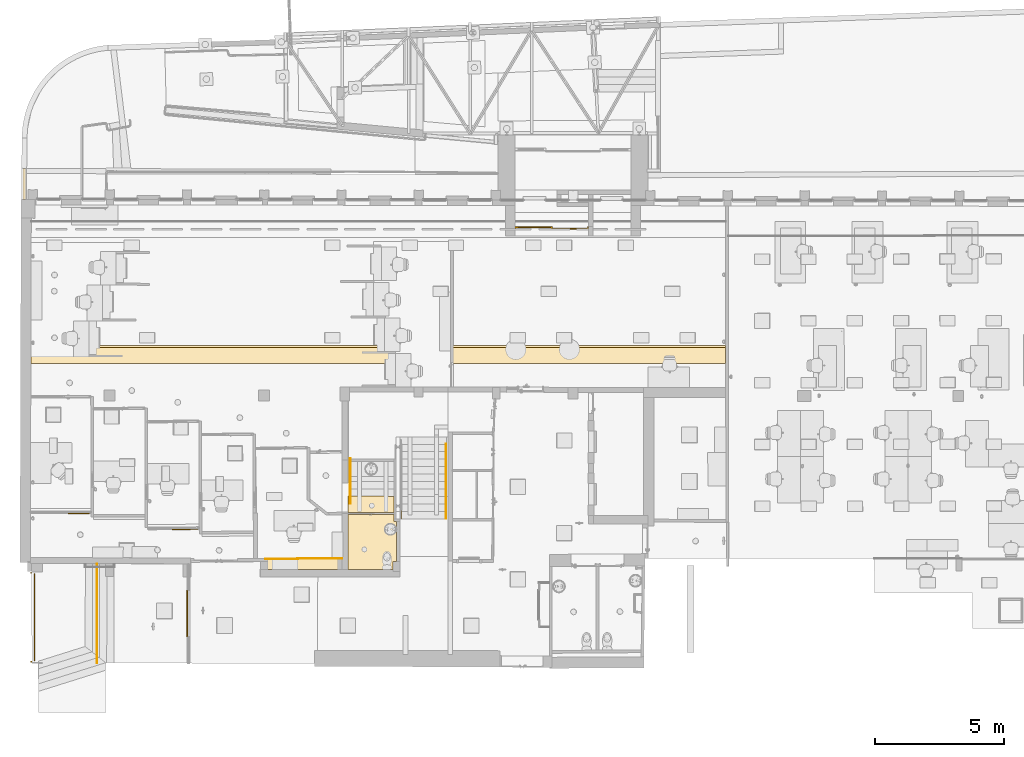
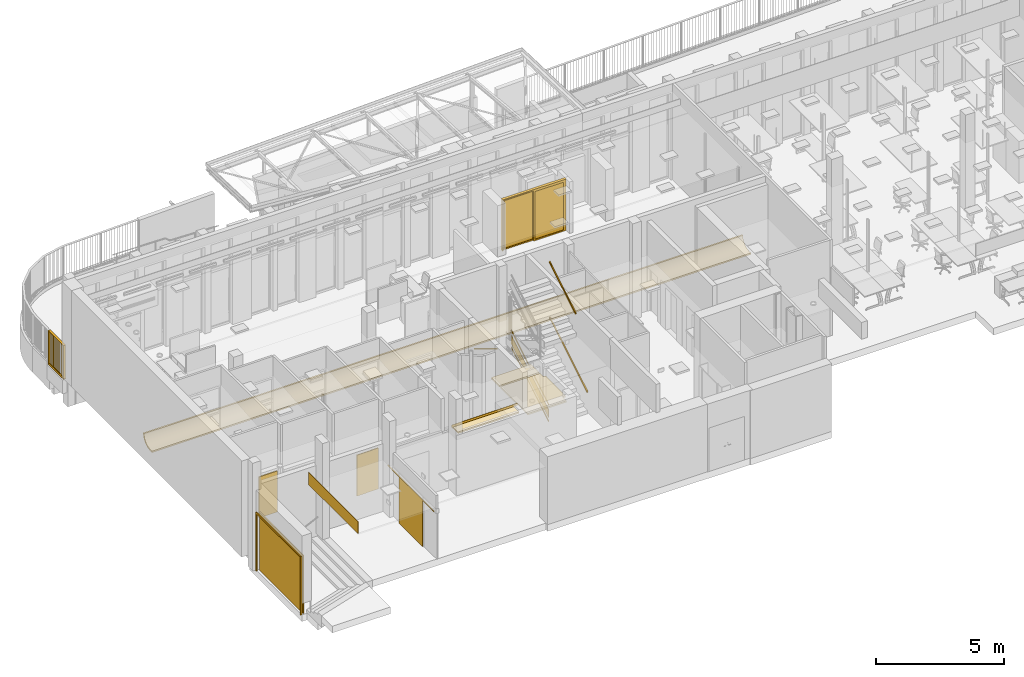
# One storey, part 51 of 128: 6 coverings, 5 doors, 5 railings, 3 elements without a shape of their own.
"""IFC2X3 building model written with IfcOpenShell, lengths in metres."""

from ifc_helpers import new_model, entity, si_unit, converted_unit, derived_unit, direction, frame, frame_2d, origin, origin_2d_with_axis, place, context, subcontext, project, spatial, polyline, circle_curve, parameter, trimmed, segment, composite_curve, rectangle, circle, outline, extrude, source, transform, mapped, material, material_list, layer, layer_set, layer_usage, type_object, type_shapes, element, aggregate, save


model = new_model("IFC2X3")

# Units and contexts
model_context = context("Model", 3, precision=1e-05, world=origin(), true_north=direction((6.123031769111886e-17, 1.0)))
body_context = subcontext(model_context, "Body", "Model", "MODEL_VIEW")
ifc_project = project(units=[si_unit("LENGTHUNIT", "METRE"), si_unit("AREAUNIT", "SQUARE_METRE"), converted_unit("PLANEANGLEUNIT", "DEGREE", entity("IfcPlaneAngleMeasure", 0.017453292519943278), si_unit("PLANEANGLEUNIT", "RADIAN"), dimensions=[0, 0, 0, 0, 0, 0, 0]), derived_unit("THERMALTRANSMITTANCEUNIT", [(si_unit("MASSUNIT", "GRAM", prefix="KILO"), 1), (si_unit("THERMODYNAMICTEMPERATUREUNIT", "KELVIN"), -1), (si_unit("TIMEUNIT", "SECOND"), -3)])], contexts=[model_context])

# Site, building, storey
site_placement = place(None, origin())
site = spatial("IfcSite", under=ifc_project, at=site_placement, Name="Default", CompositionType="ELEMENT")
building_placement = place(site_placement, origin())
building = spatial("IfcBuilding", under=site, at=building_placement, CompositionType="ELEMENT")
storey_placement = place(building_placement, origin())
storey = spatial("IfcBuildingStorey", under=building, at=storey_placement, Name="00_RDC CAF", CompositionType="ELEMENT", Elevation=2.4982504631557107e-13)

# Curtain wall, door
curtain_wall_type = type_object("IfcCurtainWallType", Name="Mur-rideau:M.Ri_Vitre_40mm_Montant_50X50mm_Avec_Décalage", PredefinedType="NOTDEFINED")
curtain_wall_1_placement = place(storey_placement, origin())
curtain_wall_1 = element("IfcCurtainWall", 1, at=curtain_wall_1_placement, inside=storey, type_object=curtain_wall_type, Name="Mur-rideau:M.Ri_Vitre_40mm_Montant_50X50mm_Avec_Décalage", ObjectType="Mur-rideau:M.Ri_Vitre_40mm_Montant_50X50mm_Avec_Décalage")
ifc_material_1 = material(Name="ARC - M.In - Blanc")
door_style_1 = type_object("IfcDoorStyle", Name="P_Ri_Coulissante_1V_Applique:P_M.Ri_Int_Coulissante_1V_Plein_Applique_40mm", ConstructionType="NOTDEFINED", OperationType="NOTDEFINED", ParameterTakesPrecedence=False, Sizeable=False, material=ifc_material_1)
shared_shape_1 = source(origin(), body_context, "Body", "SweptSolid", [
    extrude(rectangle(XDim=0.725000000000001, YDim=0.039999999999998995, at=origin_2d_with_axis()), frame((0.0, 0.1299999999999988, 0.0)), (0.0, 0.0, 1.0), 1.9024999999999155),
    extrude(outline(polyline([(-0.963749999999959, -0.41250000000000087), (0.9887499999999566, -0.41250000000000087), (0.9887499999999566, 0.4125000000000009), (-0.963749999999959, 0.41250000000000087), (-0.963749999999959, 0.36250000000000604), (0.9387499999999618, 0.36250000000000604), (0.9387499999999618, -0.3625000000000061), (-0.963749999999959, -0.36250000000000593), (-0.963749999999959, -0.41250000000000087)])), frame((0.0, 0.10999999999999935, 0.963749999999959), z_axis=(0.0, 1.0, 0.0), x_axis=(0.0, 0.0, 1.0)), (0.0, 0.0, 1.0), 0.04000000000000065),
])
type_shapes(door_style_1, [shared_shape_1])
door_1_placement = place(curtain_wall_1_placement, frame((8.547265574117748, 132.11264719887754, 0.059999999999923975), z_axis=(0.0, 0.0, 1.0), x_axis=(-1.0, 0.0, 0.0)))
door_1 = element("IfcDoor", 2, at=door_1_placement, type_object=door_style_1, material=ifc_material_1, Name="P_Ri_Coulissante_1V_Applique:P_M.Ri_Int_Coulissante_1V_Plein_Applique_40mm", ObjectType="P_Ri_Coulissante_1V_Applique:P_M.Ri_Int_Coulissante_1V_Plein_Applique_40mm", OverallHeight=1.9524999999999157, OverallWidth=1.65000000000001, context=body_context, shape_type="MappedRepresentation", body=[
    mapped(shared_shape_1, transform((0.0, 0.0, 0.0), scale=1.0)),
])
aggregate(curtain_wall_1, [door_1])

curtain_wall_2_placement = place(storey_placement, origin())
curtain_wall_2 = element("IfcCurtainWall", 3, at=curtain_wall_2_placement, inside=storey, type_object=curtain_wall_type, Name="Mur-rideau:M.Ri_Vitre_40mm_Montant_50X50mm_Avec_Décalage", ObjectType="Mur-rideau:M.Ri_Vitre_40mm_Montant_50X50mm_Avec_Décalage")
door_style_2 = type_object("IfcDoorStyle", Name="P_Ri_Coulissante_1V_Applique:P_M.Ri_Int_Coulissante_1V_Plein_Applique_40mm", ConstructionType="NOTDEFINED", OperationType="NOTDEFINED", ParameterTakesPrecedence=False, Sizeable=False, material=ifc_material_1)
shared_shape_2 = source(origin(), body_context, "Body", "SweptSolid", [
    extrude(rectangle(XDim=0.8803416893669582, YDim=0.039999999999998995, at=origin_2d_with_axis()), frame((0.0, 0.1299999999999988, 0.0)), (0.0, 0.0, 1.0), 1.9024999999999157),
    extrude(outline(polyline([(-0.963749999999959, -0.4901708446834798), (0.9887499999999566, -0.4901708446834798), (0.9887499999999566, 0.49017084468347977), (-0.963749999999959, 0.4901708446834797), (-0.963749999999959, 0.4401708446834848), (0.9387499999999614, 0.4401708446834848), (0.9387499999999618, -0.44017084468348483), (-0.963749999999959, -0.4401708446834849), (-0.963749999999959, -0.4901708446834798)])), frame((0.0, 0.10999999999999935, 0.963749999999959), z_axis=(0.0, 1.0, 0.0), x_axis=(0.0, 0.0, 1.0)), (0.0, 0.0, 1.0), 0.04000000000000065),
])
type_shapes(door_style_2, [shared_shape_2])
door_2_placement = place(curtain_wall_2_placement, frame((12.67378190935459, 131.49036320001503, 0.059999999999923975), z_axis=(0.0, 0.0, 1.0), x_axis=(-0.9999522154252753, -0.009775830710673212, 0.0)))
door_2 = element("IfcDoor", 4, at=door_2_placement, type_object=door_style_2, material=ifc_material_1, Name="P_Ri_Coulissante_1V_Applique:P_M.Ri_Int_Coulissante_1V_Plein_Applique_40mm", ObjectType="P_Ri_Coulissante_1V_Applique:P_M.Ri_Int_Coulissante_1V_Plein_Applique_40mm", OverallHeight=1.9524999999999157, OverallWidth=1.9606833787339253, context=body_context, shape_type="MappedRepresentation", body=[
    mapped(shared_shape_2, transform((0.0, 0.0, 0.0), scale=1.0)),
])
aggregate(curtain_wall_2, [door_2])

# Doors
ifc_material_2 = material(Name="ARC - M.In - Verre")
ifc_material_list_1 = material_list([ifc_material_2, ifc_material_1])
door_style_3 = type_object("IfcDoorStyle", Name="P_Baie_Coulissante:P_Ext_Baie_Coulissante_2760x2450mm", ConstructionType="NOTDEFINED", OperationType="NOTDEFINED", ParameterTakesPrecedence=False, Sizeable=False, material=ifc_material_list_1)
shared_shape_3 = source(origin(), body_context, "Body", "SweptSolid", [
    extrude(rectangle(XDim=1.2899999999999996, YDim=0.019999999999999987, at=frame_2d((-5.551115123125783e-17, 0.0), x_axis=(1.0, 0.0))), frame((0.7550000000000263, 4.255194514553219, 0.059999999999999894)), (0.0, 0.0, 1.0), 2.280000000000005),
    extrude(outline(polyline([(-0.7049999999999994, -1.2000000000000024), (0.7050000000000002, -1.2000000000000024), (0.7049999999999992, 1.2000000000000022), (-0.705, 1.2000000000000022), (-0.7049999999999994, -1.2000000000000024)]), holes=[polyline([(-0.6450000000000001, 1.1400000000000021), (0.6449999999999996, 1.1400000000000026), (0.645, -1.1400000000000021), (-0.6449999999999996, -1.1400000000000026), (-0.6450000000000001, 1.1400000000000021)])]), frame((0.7550000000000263, 4.285194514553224, 1.2000000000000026), z_axis=(0.0, -1.0, 0.0), x_axis=(1.0, 0.0, 0.0)), (0.0, 0.0, 1.0), 0.059999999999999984),
    extrude(rectangle(XDim=1.2899999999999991, YDim=0.019999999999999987, at=frame_2d((5.551115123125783e-17, 0.0), x_axis=(1.0, 0.0))), frame((2.105000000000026, 4.1951945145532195, 0.059999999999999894)), (0.0, 0.0, 1.0), 2.280000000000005),
    extrude(outline(polyline([(-0.7049999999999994, -1.2000000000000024), (0.7050000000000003, -1.2000000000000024), (0.7049999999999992, 1.2000000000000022), (-0.705, 1.2000000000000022), (-0.7049999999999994, -1.2000000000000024)]), holes=[polyline([(-0.6450000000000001, 1.1400000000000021), (0.6449999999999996, 1.1400000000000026), (0.6449999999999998, -1.1400000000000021), (-0.6449999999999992, -1.1400000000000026), (-0.6450000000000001, 1.1400000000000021)])]), frame((2.105000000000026, 4.225194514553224, 1.2000000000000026), z_axis=(0.0, -1.0, 0.0), x_axis=(1.0, 0.0, 0.0)), (0.0, 0.0, 1.0), 0.06),
    extrude(outline(polyline([(1.3800000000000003, -1.2124999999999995), (1.4300000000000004, -1.2124999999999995), (1.4300000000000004, 1.2374999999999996), (-1.4300000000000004, 1.2374999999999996), (-1.4300000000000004, -1.2124999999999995), (-1.3800000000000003, -1.2124999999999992), (-1.3800000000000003, 1.1874999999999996), (1.3800000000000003, 1.1874999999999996), (1.3800000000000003, -1.2124999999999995)])), frame((1.4300000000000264, 4.285194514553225, 1.2124999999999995), z_axis=(0.0, -1.0, 0.0), x_axis=(1.0, 0.0, 0.0)), (0.0, 0.0, 1.0), 0.1200000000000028),
])
type_shapes(door_style_3, [shared_shape_3])
door_3_placement = place(storey_placement, frame((28.355839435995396, 147.2797810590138, 0.0), z_axis=(0.0, 0.0, 1.0), x_axis=(-0.9999987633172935, 0.0015726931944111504, 0.0)))
element("IfcDoor", 5, at=door_3_placement, inside=storey, type_object=door_style_3, material=ifc_material_list_1, Name="P_Baie_Coulissante:P_Ext_Baie_Coulissante_2760x2450mm", ObjectType="P_Baie_Coulissante:P_Ext_Baie_Coulissante_2760x2450mm", OverallHeight=2.4499999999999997, OverallWidth=2.8600000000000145, context=body_context, shape_type="MappedRepresentation", body=[
    mapped(shared_shape_3, transform((0.0, 0.0, 0.0), scale=1.0)),
])
ifc_material_3 = material(Name="ARC - M.Ex - Verre")
ifc_material_4 = material(Name="ARC - M.Ex - Blanc")
ifc_material_list_2 = material_list([ifc_material_3, ifc_material_4])
door_style_4 = type_object("IfcDoorStyle", Name="P_Coulissante_Applique_Double:P_Ext_Coulissante_Applique_Double_Vitree_1820x2190mm", ConstructionType="NOTDEFINED", OperationType="NOTDEFINED", ParameterTakesPrecedence=False, Sizeable=False, material=ifc_material_list_2)
shared_shape_4 = source(origin(), body_context, "Body", "SweptSolid", [
    extrude(rectangle(XDim=0.034999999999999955, YDim=0.9099999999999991, at=origin_2d_with_axis()), frame((1.3649999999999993, 0.05249999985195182, 0.0), z_axis=(0.0, 0.0, 1.0), x_axis=(0.0, 1.0, 0.0)), (0.0, 0.0, 1.0), 2.1999999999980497),
    extrude(rectangle(XDim=0.034999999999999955, YDim=0.9099999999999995, at=origin_2d_with_axis()), frame((0.45499999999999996, 0.05249999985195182, 0.0), z_axis=(0.0, 0.0, 1.0), x_axis=(0.0, 1.0, 0.0)), (0.0, 0.0, 1.0), 2.1999999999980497),
    extrude(outline(polyline([(-0.022500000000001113, -0.022499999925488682), (0.017499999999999, -0.022499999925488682), (0.017499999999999, -0.017500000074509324), (-0.012499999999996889, -0.017500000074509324), (-0.012499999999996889, 0.017499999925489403), (0.017499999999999, 0.017499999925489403), (0.017499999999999, 0.022500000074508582), (-0.022500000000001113, 0.022500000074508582), (-0.022500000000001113, -0.022499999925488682)])), frame((-0.9099999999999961, 0.05249999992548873, 2.2074999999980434), z_axis=(1.0, 0.0, 0.0), x_axis=(0.0, 0.0, -1.0)), (0.0, 0.0, 1.0), 3.639999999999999),
])
type_shapes(door_style_4, [shared_shape_4])
door_4_placement = place(storey_placement, frame((12.806391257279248, 127.16900691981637, 0.0), z_axis=(0.0, 0.0, 1.0), x_axis=(0.0, 1.0, 0.0)))
element("IfcDoor", 6, at=door_4_placement, inside=storey, type_object=door_style_4, material=ifc_material_list_2, Name="P_Coulissante_Applique_Double:P_Ext_Coulissante_Applique_Double_Vitree_1820x2190mm", ObjectType="P_Coulissante_Applique_Double:P_Ext_Coulissante_Applique_Double_Vitree_1820x2190mm", OverallHeight=2.2299999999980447, OverallWidth=3.640000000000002, context=body_context, shape_type="MappedRepresentation", body=[
    mapped(shared_shape_4, transform((0.0, 0.0, 0.0), scale=1.0)),
])
ifc_material_5 = material(Name="ARC - M.Ex - Tole")
ifc_material_list_3 = material_list([ifc_material_5, ifc_material_4])
door_style_5 = type_object("IfcDoorStyle", Name="Po_Porte_sectionnelle:Po_Porte_sectionnelle_3400x2780mm", ConstructionType="NOTDEFINED", OperationType="ROLLINGUP", ParameterTakesPrecedence=False, Sizeable=False, material=ifc_material_list_3)
shared_shape_5 = source(origin(), body_context, "Body", "SweptSolid", [
    extrude(rectangle(XDim=0.03999999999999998, YDim=3.399999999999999, at=origin_2d_with_axis()), frame((1.7599999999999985, -0.6100000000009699, 0.0), z_axis=(0.0, 0.0, 1.0), x_axis=(0.0, -1.0, 0.0)), (0.0, 0.0, 1.0), 2.78),
    extrude(outline(polyline([(-1.3825000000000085, -1.7600000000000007), (1.4125000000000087, -1.7600000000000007), (1.4125000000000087, 1.7600000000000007), (-1.3825000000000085, 1.760000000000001), (-1.3825000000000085, 1.7000000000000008), (1.3525000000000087, 1.7000000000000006), (1.3525000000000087, -1.7000000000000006), (-1.3825000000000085, -1.7000000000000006), (-1.3825000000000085, -1.7600000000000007)])), frame((1.7599999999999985, -0.7700000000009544, 1.3825000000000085), z_axis=(0.0, 1.0, 0.0), x_axis=(0.0, 0.0, 1.0)), (0.0, 0.0, 1.0), 0.05),
])
type_shapes(door_style_5, [shared_shape_5])
door_5_placement = place(storey_placement, frame((7.43314407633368, 129.68705240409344, -0.5500000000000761), z_axis=(0.0, 0.0, 1.0), x_axis=(0.0016419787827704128, -0.9999986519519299, 0.0)))
element("IfcDoor", 7, at=door_5_placement, inside=storey, type_object=door_style_5, material=ifc_material_list_3, Name="Po_Porte_sectionnelle:Po_Porte_sectionnelle_3400x2780mm", ObjectType="Po_Porte_sectionnelle:Po_Porte_sectionnelle_3400x2780mm", OverallHeight=2.7950000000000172, OverallWidth=3.520000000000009, context=body_context, shape_type="MappedRepresentation", body=[
    mapped(shared_shape_5, transform((0.0, 0.0, 0.0), scale=1.0)),
])

# Coverings
ifc_material_6 = material(Name="ARC - FP - Blanc")
ifc_layer_1 = layer(ifc_material_6, 0.02)
ifc_material_7 = material(Name="ARC - FP - Trame 600 x 600")
ifc_layer_2 = layer(ifc_material_7, 0.05)
ifc_layer_set_1 = layer_set([ifc_layer_1, ifc_layer_2], Name="Plafond composé:FP_Dalle-600X600_70mm")
ifc_layer_usage_1 = layer_usage(ifc_layer_set_1, "AXIS3", "NEGATIVE", 0.07)
covering_type_1 = type_object("IfcCoveringType", Name="Plafond composé:FP_Dalle-600X600_70mm", PredefinedType="CEILING")
covering_1_placement = place(storey_placement, origin())
element("IfcCovering", 8, at=covering_1_placement, inside=storey, type_object=covering_type_1, material=ifc_layer_usage_1, Name="Plafond composé:FP_Dalle-600X600_70mm", ObjectType="Plafond composé:FP_Dalle-600X600_70mm", PredefinedType="CEILING", context=body_context, shape_type="SweptSolid", body=[
    extrude(outline(polyline([(-0.5339880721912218, 0.7862506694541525), (-0.5339880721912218, -0.7629314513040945), (-0.39447347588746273, -0.7625603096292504), (-0.3936373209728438, -1.0768764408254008), (1.3594256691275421, -1.0768764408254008), (1.3594256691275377, 1.0533716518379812), (-0.4313821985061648, 1.0533716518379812), (-0.4313821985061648, 0.7862506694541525), (-0.5339880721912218, 0.7862506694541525)])), frame((20.355139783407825, 130.86723233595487, 2.4800000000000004), z_axis=(0.0, 0.0, -1.0), x_axis=(-1.0, 0.0, 0.0)), (0.0, 0.0, -1.0), 0.06999999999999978),
])
ifc_layer_usage_2 = layer_usage(ifc_layer_set_1, "AXIS3", "NEGATIVE", 0.07)
covering_2_placement = place(storey_placement, origin())
element("IfcCovering", 9, at=covering_2_placement, inside=storey, type_object=covering_type_1, material=ifc_layer_usage_2, Name="Plafond composé:FP_Dalle-600X600_70mm", ObjectType="Plafond composé:FP_Dalle-600X600_70mm", PredefinedType="CEILING", context=body_context, shape_type="SweptSolid", body=[
    extrude(outline(polyline([(-0.317878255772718, -0.8954039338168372), (0.31707686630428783, -0.8954039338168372), (0.31707686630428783, 0.8954039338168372), (-0.31627547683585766, 0.8954039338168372), (-0.317878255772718, -0.8954039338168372)])), frame((19.89111804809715, 132.31768085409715, 2.48), z_axis=(0.0, 0.0, 1.0), x_axis=(0.0, -1.0, 0.0)), (0.0, 0.0, 1.0), 0.06999999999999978),
])
covering_type_2 = type_object("IfcCoveringType", Name="Faux-Plafond_CAF:Faux-Plafond_CAF", PredefinedType="CEILING")
covering_3_placement = place(storey_placement, origin())
element("IfcCovering", 10, at=covering_3_placement, inside=storey, type_object=covering_type_2, Name="Faux-Plafond_CAF:Faux-Plafond_CAF", ObjectType="Faux-Plafond_CAF:Faux-Plafond_CAF", PredefinedType="CEILING", context=body_context, shape_type="SweptSolid", body=[
    extrude(outline(composite_curve([segment(trimmed(circle_curve(frame_2d((0.19616529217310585, -0.254134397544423), x_axis=(1.0, 0.0)), 0.5199999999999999), [parameter(90.00000000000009)], [parameter(173.45113265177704)], True, "PARAMETER"), True, "CONTINUOUS"), segment(polyline([(-0.3204416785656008, -0.19482809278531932), (-0.3204416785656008, -0.2648280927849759)]), True, "CONTINUOUS"), segment(polyline([(-0.3204416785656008, -0.2648280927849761), (-0.2504416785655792, -0.26482809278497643)]), True, "CONTINUOUS"), segment(polyline([(-0.2504416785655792, -0.26482809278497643), (-0.2504416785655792, -0.19897813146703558)]), True, "CONTINUOUS"), segment(trimmed(circle_curve(frame_2d((0.19616529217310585, -0.254134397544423), x_axis=(1.0, 0.0)), 0.44999999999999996), [parameter(90.00000000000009)], [parameter(172.9595821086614)], True, "PARAMETER"), False, "CONTINUOUS"), segment(polyline([(0.19616529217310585, 0.19586560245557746), (0.3747180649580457, 0.1958656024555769)]), True, "CONTINUOUS"), segment(polyline([(0.3747180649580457, 0.1958656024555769), (0.3747180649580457, 0.26586560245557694)]), True, "CONTINUOUS"), segment(polyline([(0.3747180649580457, 0.2658656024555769), (0.19616529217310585, 0.2658656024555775)]), True, "CONTINUOUS")], self_intersect=False)), frame((6.683097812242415, 138.1654524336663, 0.4151719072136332), z_axis=(1.0, 0.0, 0.0), x_axis=(0.0, -1.0, 0.0)), (0.0, 0.0, 1.0), 26.994262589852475),
])
ifc_layer_3 = layer(ifc_material_6, 0.02)
ifc_layer_set_2 = layer_set([ifc_layer_3], Name="Mur de base:FP_Platre_20mm_Joue_de_plafond")
ifc_layer_usage_3 = layer_usage(ifc_layer_set_2, "AXIS2", "NEGATIVE", 0.01)
covering_type_3 = type_object("IfcCoveringType", Name="Mur de base:FP_Platre_20mm_Joue_de_plafond", PredefinedType="CEILING", material=ifc_layer_set_2)
covering_4_placement = place(storey_placement, frame((15.797431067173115, 130.19868552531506, 2.769999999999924), z_axis=(0.0, 0.0, 1.0), x_axis=(0.9999827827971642, 0.005868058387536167, 0.0)))
element("IfcCovering", 11, at=covering_4_placement, inside=storey, type_object=covering_type_3, material=ifc_layer_usage_3, Name="Mur de base:FP_Platre_20mm_Joue_de_plafond", ObjectType="Mur de base:FP_Platre_20mm_Joue_de_plafond", PredefinedType="CEILING", context=body_context, shape_type="SweptSolid", body=[
    extrude(outline(polyline([(2.97327555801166, -0.010000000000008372), (2.9733929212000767, 0.009999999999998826), (2.815243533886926, 0.009999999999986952), (0.05981982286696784, 0.010000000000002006), (0.0, 0.009999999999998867), (0.0, -0.00999999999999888), (2.97327555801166, -0.010000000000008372)])), origin(), (0.0, 0.0, 1.0), 0.10499999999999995),
])
ifc_layer_usage_4 = layer_usage(ifc_layer_set_2, "AXIS2", "NEGATIVE", 0.01)
covering_5_placement = place(storey_placement, frame((9.250750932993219, 126.15543272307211, 2.449999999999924), z_axis=(0.0, 0.0, 1.0), x_axis=(0.0, 1.0, 0.0)))
element("IfcCovering", 12, at=covering_5_placement, inside=storey, type_object=covering_type_3, material=ifc_layer_usage_4, Name="Mur de base:FP_Platre_20mm_Joue_de_plafond", ObjectType="Mur de base:FP_Platre_20mm_Joue_de_plafond", PredefinedType="CEILING", context=body_context, shape_type="SweptSolid", body=[
    extrude(outline(polyline([(3.862266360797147, -0.009999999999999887), (3.862312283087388, 0.009999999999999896), (0.0, 0.009999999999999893), (0.0, -0.009999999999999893), (3.862266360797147, -0.009999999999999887)])), origin(), (0.0, 0.0, 1.0), 0.580000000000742),
])
ifc_layer_4 = layer(ifc_material_6, 0.07)
ifc_layer_set_3 = layer_set([ifc_layer_4], Name="Plafond composé:FP_70mm")
ifc_layer_usage_5 = layer_usage(ifc_layer_set_3, "AXIS3", "NEGATIVE", 0.07)
covering_type_4 = type_object("IfcCoveringType", Name="Plafond composé:FP_70mm", PredefinedType="CEILING")
covering_6_placement = place(storey_placement, origin())
element("IfcCovering", 13, at=covering_6_placement, inside=storey, type_object=covering_type_4, material=ifc_layer_usage_5, Name="Plafond composé:FP_70mm", ObjectType="Plafond composé:FP_70mm", PredefinedType="CEILING", context=body_context, shape_type="SweptSolid", body=[
    extrude(outline(polyline([(-1.3773932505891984, -0.21338248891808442), (1.376803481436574, -0.21338248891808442), (1.3779830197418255, 0.22146698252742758), (-1.377393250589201, 0.2052979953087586), (-1.3773932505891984, -0.21338248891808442)])), frame((17.234584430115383, 130.00373838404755, 2.7)), (0.0, 0.0, 1.0), 0.06999999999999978),
])

# Stair, railings
type_product = type_object("IfcTypeProduct", Name="Escalier assemblé:E_Escalier_Assemble_Béton 2")
stair_placement = place(storey_placement, origin())
stair = element("IfcStair", 14, at=stair_placement, inside=storey, type_object=type_product, Name="Escalier assemblé:Escalier", ObjectType="Escalier assemblé:E_Escalier_Assemble_Béton 2", ShapeType="NOTDEFINED")
ifc_material_8 = material(Name="STR - Acier")
ifc_material_9 = material(Name="ARC - Metal")
ifc_material_list_4 = material_list([ifc_material_8, ifc_material_9])
railing_type_1 = type_object("IfcRailingType", Name="Garde-corps:GC_1_lisse_40x30+Plein_900mm", PredefinedType="NOTDEFINED")
railing_1_placement = place(stair_placement, origin())
railing_1 = element("IfcRailing", 15, at=railing_1_placement, type_object=railing_type_1, material=ifc_material_list_4, Name="Garde-corps:GC_1_lisse_40x30+Plein_900mm", ObjectType="Garde-corps:GC_1_lisse_40x30+Plein_900mm", PredefinedType="NOTDEFINED", context=body_context, shape_type="SweptSolid", body=[
    extrude(outline(polyline([(-1.8025955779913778, -0.1749999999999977), (1.5900889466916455, -0.17499999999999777), (1.8025955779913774, 0.17499999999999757), (-1.5900889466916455, 0.17499999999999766), (-1.8025955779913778, -0.1749999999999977)])), frame((21.05912785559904, 133.203483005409, 1.5317305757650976), z_axis=(1.0, 0.0, 0.0), x_axis=(0.0, 0.8547803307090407, 0.5189899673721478)), (0.0, 0.0, 1.0), 0.019999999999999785),
    extrude(outline(polyline([(-1.7115213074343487, -0.024999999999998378), (1.6811632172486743, -0.024999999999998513), (1.7115213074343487, 0.024999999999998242), (-1.6811632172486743, 0.024999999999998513), (-1.7115213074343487, -0.024999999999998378)])), frame((21.054903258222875, 133.203483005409, 1.1557192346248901), z_axis=(1.0, 0.0, 0.0), x_axis=(0.0, 0.8547803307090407, 0.5189899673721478)), (0.0, 0.0, 1.0), 0.02999999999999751),
    extrude(outline(polyline([(-1.711521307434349, -0.024999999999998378), (1.6811632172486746, -0.024999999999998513), (1.7115213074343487, 0.024999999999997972), (-1.6811632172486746, 0.024999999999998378), (-1.711521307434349, -0.024999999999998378)])), frame((21.054903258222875, 133.203483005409, 1.9557192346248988), z_axis=(1.0, 0.0, 0.0), x_axis=(0.0, 0.8547803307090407, 0.5189899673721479)), (0.0, 0.0, 1.0), 0.02999999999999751),
])
railing_type_2 = type_object("IfcRailingType", Name="Garde-corps:GC_Main courante_au_mur_1_lisse_40x30", PredefinedType="NOTDEFINED")
railing_2_placement = place(stair_placement, origin())
railing_2 = element("IfcRailing", 16, at=railing_2_placement, type_object=railing_type_2, material=ifc_material_9, Name="Garde-corps:GC_Main courante_au_mur_1_lisse_40x30", ObjectType="Garde-corps:GC_Main courante_au_mur_1_lisse_40x30", PredefinedType="NOTDEFINED", context=body_context, shape_type="SweptSolid", body=[
    extrude(outline(polyline([(-1.026024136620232, -0.025000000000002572), (1.0563822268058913, -0.025000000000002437), (1.0260241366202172, 0.02499999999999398), (-1.0563822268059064, 0.024999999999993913), (-1.026024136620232, -0.025000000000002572)])), frame((19.070746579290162, 133.223483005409, 3.528268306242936), z_axis=(1.0, 0.0, 0.0), x_axis=(0.0, -0.8547803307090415, 0.5189899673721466)), (0.0, 0.0, 1.0), 0.029999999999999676),
])
aggregate(stair, [railing_1, railing_2])

# Railings
railing_3_placement = place(storey_placement, origin())
element("IfcRailing", 17, at=railing_3_placement, inside=storey, type_object=railing_type_2, material=ifc_material_9, Name="Garde-corps:GC_Main courante_au_mur_1_lisse_40x30", ObjectType="Garde-corps:GC_Main courante_au_mur_1_lisse_40x30", PredefinedType="NOTDEFINED", context=body_context, shape_type="SweptSolid", body=[
    extrude(outline(polyline([(-1.7115213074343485, -0.024999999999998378), (1.6811632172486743, -0.024999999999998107), (1.7115213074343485, 0.024999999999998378), (-1.681163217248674, 0.024999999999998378), (-1.7115213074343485, -0.024999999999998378)])), frame((22.794903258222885, 133.203483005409, 1.9557192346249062), z_axis=(1.0, 0.0, 0.0), x_axis=(0.0, 0.854780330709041, 0.5189899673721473)), (0.0, 0.0, 1.0), 0.030000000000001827),
])
railing_4_placement = place(storey_placement, origin())
element("IfcRailing", 18, at=railing_4_placement, inside=storey, type_object=railing_type_2, material=ifc_material_9, Name="Garde-corps:GC_Main courante_au_mur_1_lisse_40x30", ObjectType="Garde-corps:GC_Main courante_au_mur_1_lisse_40x30", PredefinedType="NOTDEFINED", context=body_context, shape_type="SweptSolid", body=[
    extrude(outline(polyline([(-1.1983470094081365, -0.024999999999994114), (1.1683777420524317, -0.024999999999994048), (1.1983470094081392, 0.024999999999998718), (-1.1683777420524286, 0.024999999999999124), (-1.1983470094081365, -0.024999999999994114)])), frame((22.794903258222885, 133.66448300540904, 4.868884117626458), z_axis=(1.0, 0.0, 0.0), x_axis=(0.0, 0.8577254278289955, 0.5141080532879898)), (0.0, 0.0, 1.0), 0.02999999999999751),
])
ifc_material_10 = material(Name="<Unnamed>")
ifc_material_list_5 = material_list([ifc_material_8, ifc_material_10, ifc_material_9])
railing_type_3 = type_object("IfcRailingType", Name="Garde-corps:CLO_2_traverse_100x20_1610mm", PredefinedType="NOTDEFINED")
railing_5_placement = place(storey_placement, origin())
element("IfcRailing", 19, at=railing_5_placement, inside=storey, type_object=railing_type_3, material=ifc_material_list_5, Name="Garde-corps:CLO_2_traverse_100x20_1610mm", ObjectType="Garde-corps:CLO_2_traverse_100x20_1610mm", PredefinedType="NOTDEFINED", context=body_context, shape_type="SweptSolid", body=[
    extrude(rectangle(XDim=0.019999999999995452, YDim=0.1, at=frame_2d((0.0, 5.412337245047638e-16), x_axis=(1.0, 0.0))), frame((6.421933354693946, 144.19183954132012, -0.10470645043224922), z_axis=(0.0, 0.0, 1.0), x_axis=(0.0, 1.0, 0.0)), (0.0, 0.0, 1.0), 1.5700000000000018),
    extrude(circle(Radius=0.01, at=origin_2d_with_axis()), frame((6.421933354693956, 144.20586054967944, -0.10470645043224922)), (0.0, 0.0, 1.0), 0.009999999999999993),
    extrude(circle(Radius=0.01, at=origin_2d_with_axis()), frame((6.421933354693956, 144.20586054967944, -0.09470645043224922)), (0.0, 0.0, 1.0), 1.5599999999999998),
    extrude(circle(Radius=0.01, at=origin_2d_with_axis()), frame((6.421933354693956, 144.28297609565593, -0.10470645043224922)), (0.0, 0.0, 1.0), 0.009999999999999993),
    extrude(circle(Radius=0.01, at=origin_2d_with_axis()), frame((6.421933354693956, 144.28297609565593, -0.09470645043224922)), (0.0, 0.0, 1.0), 1.5599999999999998),
    extrude(circle(Radius=0.01, at=origin_2d_with_axis()), frame((6.421933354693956, 144.36710214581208, -0.10470645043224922)), (0.0, 0.0, 1.0), 0.009999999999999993),
    extrude(circle(Radius=0.01, at=origin_2d_with_axis()), frame((6.421933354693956, 144.36710214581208, -0.09470645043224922)), (0.0, 0.0, 1.0), 1.5599999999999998),
    extrude(circle(Radius=0.01, at=origin_2d_with_axis()), frame((6.421933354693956, 144.45122819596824, -0.10470645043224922)), (0.0, 0.0, 1.0), 0.009999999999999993),
    extrude(circle(Radius=0.01, at=origin_2d_with_axis()), frame((6.421933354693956, 144.45122819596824, -0.09470645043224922)), (0.0, 0.0, 1.0), 1.5599999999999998),
    extrude(circle(Radius=0.01, at=origin_2d_with_axis()), frame((6.421933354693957, 144.5353542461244, -0.10470645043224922)), (0.0, 0.0, 1.0), 0.009999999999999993),
    extrude(circle(Radius=0.01, at=origin_2d_with_axis()), frame((6.421933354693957, 144.5353542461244, -0.09470645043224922)), (0.0, 0.0, 1.0), 1.5599999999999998),
    extrude(circle(Radius=0.01, at=origin_2d_with_axis()), frame((6.421933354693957, 144.61948029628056, -0.10470645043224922)), (0.0, 0.0, 1.0), 0.009999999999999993),
    extrude(circle(Radius=0.01, at=origin_2d_with_axis()), frame((6.421933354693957, 144.61948029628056, -0.09470645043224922)), (0.0, 0.0, 1.0), 1.5599999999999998),
    extrude(circle(Radius=0.01, at=origin_2d_with_axis()), frame((6.421933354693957, 144.7036063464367, -0.10470645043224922)), (0.0, 0.0, 1.0), 0.009999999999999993),
    extrude(circle(Radius=0.01, at=origin_2d_with_axis()), frame((6.421933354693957, 144.7036063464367, -0.09470645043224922)), (0.0, 0.0, 1.0), 1.5599999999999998),
    extrude(circle(Radius=0.01, at=origin_2d_with_axis()), frame((6.421933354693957, 144.78773239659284, -0.10470645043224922)), (0.0, 0.0, 1.0), 0.009999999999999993),
    extrude(circle(Radius=0.01, at=origin_2d_with_axis()), frame((6.421933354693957, 144.78773239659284, -0.09470645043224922)), (0.0, 0.0, 1.0), 1.5599999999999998),
    extrude(circle(Radius=0.01, at=origin_2d_with_axis()), frame((6.421933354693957, 144.871858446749, -0.10470645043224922)), (0.0, 0.0, 1.0), 0.009999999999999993),
    extrude(circle(Radius=0.01, at=origin_2d_with_axis()), frame((6.421933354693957, 144.871858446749, -0.09470645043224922)), (0.0, 0.0, 1.0), 1.5599999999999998),
    extrude(circle(Radius=0.01, at=origin_2d_with_axis()), frame((6.421933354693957, 144.95598449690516, -0.10470645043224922)), (0.0, 0.0, 1.0), 0.009999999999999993),
    extrude(circle(Radius=0.01, at=origin_2d_with_axis()), frame((6.421933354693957, 144.95598449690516, -0.09470645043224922)), (0.0, 0.0, 1.0), 1.5599999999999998),
    extrude(circle(Radius=0.01, at=origin_2d_with_axis()), frame((6.421933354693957, 145.04011054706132, -0.10470645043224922)), (0.0, 0.0, 1.0), 0.009999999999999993),
    extrude(circle(Radius=0.01, at=origin_2d_with_axis()), frame((6.421933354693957, 145.04011054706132, -0.09470645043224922)), (0.0, 0.0, 1.0), 1.5599999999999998),
    extrude(circle(Radius=0.01, at=origin_2d_with_axis()), frame((6.421933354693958, 145.12423659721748, -0.10470645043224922)), (0.0, 0.0, 1.0), 0.009999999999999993),
    extrude(circle(Radius=0.01, at=origin_2d_with_axis()), frame((6.421933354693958, 145.12423659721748, -0.09470645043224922)), (0.0, 0.0, 1.0), 1.5599999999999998),
    extrude(circle(Radius=0.01, at=origin_2d_with_axis()), frame((6.421933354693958, 145.20836264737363, -0.10470645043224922)), (0.0, 0.0, 1.0), 0.009999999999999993),
    extrude(circle(Radius=0.01, at=origin_2d_with_axis()), frame((6.421933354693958, 145.20836264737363, -0.09470645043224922)), (0.0, 0.0, 1.0), 1.5599999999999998),
    extrude(circle(Radius=0.01, at=origin_2d_with_axis()), frame((6.421933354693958, 145.2924886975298, -0.10470645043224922)), (0.0, 0.0, 1.0), 0.009999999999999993),
    extrude(circle(Radius=0.01, at=origin_2d_with_axis()), frame((6.421933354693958, 145.2924886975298, -0.09470645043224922)), (0.0, 0.0, 1.0), 1.5599999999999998),
    extrude(rectangle(XDim=0.019999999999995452, YDim=0.1, at=frame_2d((0.0, -5.412337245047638e-16), x_axis=(1.0, 0.0))), frame((6.421933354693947, 145.366614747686, -0.10470645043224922), z_axis=(0.0, 0.0, 1.0), x_axis=(0.0, 1.0, 0.0)), (0.0, 0.0, 1.0), 1.5700000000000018),
    extrude(rectangle(XDim=1.2058067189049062, YDim=0.1, at=frame_2d((8.659739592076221e-15, 5.412337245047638e-16), x_axis=(1.0, 0.0))), frame((6.422708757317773, 144.77371138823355, -0.12470645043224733), z_axis=(0.0, 0.0, 1.0), x_axis=(0.0, -1.0, 0.0)), (0.0, 0.0, 1.0), 0.02000000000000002),
    extrude(rectangle(XDim=1.2058067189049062, YDim=0.1, at=frame_2d((8.659739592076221e-15, -5.412337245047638e-16), x_axis=(1.0, 0.0))), frame((6.421157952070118, 144.77371138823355, 1.4652935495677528), z_axis=(0.0, 0.0, 1.0), x_axis=(0.0, -1.0, 0.0)), (0.0, 0.0, 1.0), 0.019999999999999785),
])

save(model, "model.ifc")
